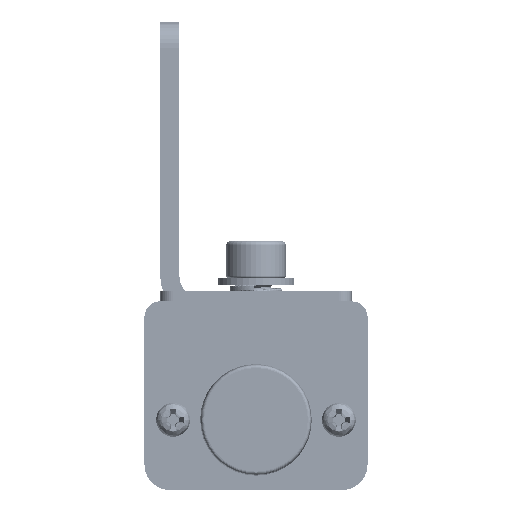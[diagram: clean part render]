
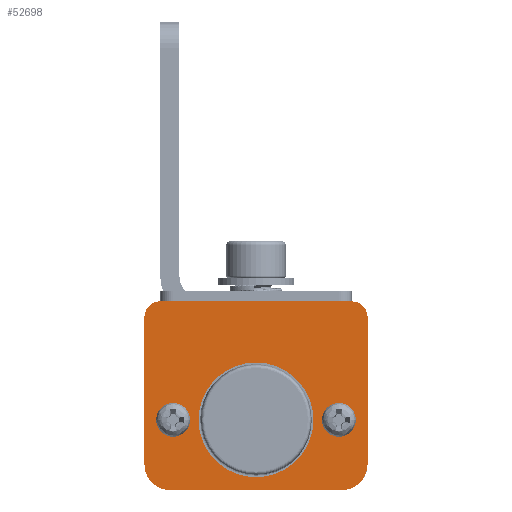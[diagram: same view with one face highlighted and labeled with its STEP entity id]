
A CAD part, front view. The second image highlights one B-rep face of the part: STEP entity #52698.
In plain terms, the highlighted planar face has unit normal (0, -1, 0) as drawn and (-1, 0, 0) by its records, which use the part's own axes.
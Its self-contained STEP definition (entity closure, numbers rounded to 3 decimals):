
#51957=DIRECTION('',(0.,1.,0.));
#51958=VECTOR('',#51957,30.);
#51959=CARTESIAN_POINT('',(28.4,0.,0.));
#51960=LINE('',#51959,#51958);
#52131=CARTESIAN_POINT('',(28.4,28.5,-25.587));
#52132=DIRECTION('',(1.,0.,0.));
#52133=DIRECTION('',(0.,0.,-1.));
#52134=AXIS2_PLACEMENT_3D('',#52131,#52132,#52133);
#52136=CARTESIAN_POINT('',(28.4,30.,-2.5));
#52137=DIRECTION('',(1.,0.,0.));
#52138=DIRECTION('',(0.,1.,0.));
#52139=AXIS2_PLACEMENT_3D('',#52136,#52137,#52138);
#52141=CARTESIAN_POINT('',(28.4,0.,-2.5));
#52142=DIRECTION('',(1.,0.,0.));
#52143=DIRECTION('',(0.,0.,1.));
#52144=AXIS2_PLACEMENT_3D('',#52141,#52142,#52143);
#52146=CARTESIAN_POINT('',(28.4,1.5,-25.587));
#52147=DIRECTION('',(1.,0.,0.));
#52148=DIRECTION('',(0.,-1.,0.));
#52149=AXIS2_PLACEMENT_3D('',#52146,#52147,#52148);
#52151=CARTESIAN_POINT('',(28.4,15.,-18.587));
#52152=DIRECTION('',(-1.,0.,0.));
#52153=DIRECTION('',(0.,0.,1.));
#52154=AXIS2_PLACEMENT_3D('',#52151,#52152,#52153);
#52156=CARTESIAN_POINT('',(28.4,15.,-18.587));
#52157=DIRECTION('',(-1.,0.,0.));
#52158=DIRECTION('',(0.,0.,-1.));
#52159=AXIS2_PLACEMENT_3D('',#52156,#52157,#52158);
#52161=CARTESIAN_POINT('',(28.4,28.,-18.587));
#52162=DIRECTION('',(-1.,0.,0.));
#52163=DIRECTION('',(0.,0.,1.));
#52164=AXIS2_PLACEMENT_3D('',#52161,#52162,#52163);
#52166=CARTESIAN_POINT('',(28.4,28.,-18.587));
#52167=DIRECTION('',(-1.,0.,0.));
#52168=DIRECTION('',(0.,0.,-1.));
#52169=AXIS2_PLACEMENT_3D('',#52166,#52167,#52168);
#52171=CARTESIAN_POINT('',(28.4,2.,-18.587));
#52172=DIRECTION('',(-1.,0.,0.));
#52173=DIRECTION('',(0.,0.,1.));
#52174=AXIS2_PLACEMENT_3D('',#52171,#52172,#52173);
#52176=CARTESIAN_POINT('',(28.4,2.,-18.587));
#52177=DIRECTION('',(-1.,0.,0.));
#52178=DIRECTION('',(0.,0.,-1.));
#52179=AXIS2_PLACEMENT_3D('',#52176,#52177,#52178);
#52189=DIRECTION('',(0.,0.,-1.));
#52190=VECTOR('',#52189,23.087);
#52191=CARTESIAN_POINT('',(28.4,32.5,-2.5));
#52192=LINE('',#52191,#52190);
#52193=DIRECTION('',(0.,-1.,0.));
#52194=VECTOR('',#52193,27.);
#52195=CARTESIAN_POINT('',(28.4,28.5,-29.587));
#52196=LINE('',#52195,#52194);
#52205=DIRECTION('',(0.,0.,1.));
#52206=VECTOR('',#52205,23.087);
#52207=CARTESIAN_POINT('',(28.4,-2.5,-25.587));
#52208=LINE('',#52207,#52206);
#52333=CARTESIAN_POINT('',(28.4,0.,0.));
#52334=VERTEX_POINT('',#52333);
#52335=CARTESIAN_POINT('',(28.4,30.,0.));
#52336=VERTEX_POINT('',#52335);
#52367=CARTESIAN_POINT('',(28.4,32.5,-2.5));
#52368=VERTEX_POINT('',#52367);
#52391=CARTESIAN_POINT('',(28.4,2.,-20.587));
#52392=VERTEX_POINT('',#52391);
#52393=CARTESIAN_POINT('',(28.4,2.,-16.587));
#52394=VERTEX_POINT('',#52393);
#52395=CARTESIAN_POINT('',(28.4,28.5,-29.587));
#52396=CARTESIAN_POINT('',(28.4,32.5,-25.587));
#52397=VERTEX_POINT('',#52395);
#52398=VERTEX_POINT('',#52396);
#52399=CARTESIAN_POINT('',(28.4,-2.5,-2.5));
#52400=VERTEX_POINT('',#52399);
#52401=CARTESIAN_POINT('',(28.4,-2.5,-25.587));
#52402=VERTEX_POINT('',#52401);
#52403=CARTESIAN_POINT('',(28.4,1.5,-29.587));
#52404=VERTEX_POINT('',#52403);
#52405=CARTESIAN_POINT('',(28.4,15.,-9.587));
#52406=CARTESIAN_POINT('',(28.4,15.,-27.587));
#52407=VERTEX_POINT('',#52405);
#52408=VERTEX_POINT('',#52406);
#52409=CARTESIAN_POINT('',(28.4,28.,-16.587));
#52410=CARTESIAN_POINT('',(28.4,28.,-20.587));
#52411=VERTEX_POINT('',#52409);
#52412=VERTEX_POINT('',#52410);
#52659=CARTESIAN_POINT('',(28.4,28.5,-25.587));
#52660=DIRECTION('',(1.,0.,0.));
#52661=DIRECTION('',(0.,0.,-1.));
#52662=AXIS2_PLACEMENT_3D('',#52659,#52660,#52661);
#52663=PLANE('',#52662);
#52665=ORIENTED_EDGE('',*,*,#52664,.T.);
#52667=ORIENTED_EDGE('',*,*,#52666,.F.);
#52668=ORIENTED_EDGE('',*,*,#52652,.T.);
#52669=ORIENTED_EDGE('',*,*,#52522,.F.);
#52671=ORIENTED_EDGE('',*,*,#52670,.T.);
#52673=ORIENTED_EDGE('',*,*,#52672,.F.);
#52675=ORIENTED_EDGE('',*,*,#52674,.T.);
#52677=ORIENTED_EDGE('',*,*,#52676,.F.);
#52678=EDGE_LOOP('',(#52665,#52667,#52668,#52669,#52671,#52673,#52675,#52677));
#52679=FACE_OUTER_BOUND('',#52678,.F.);
#52681=ORIENTED_EDGE('',*,*,#52680,.T.);
#52683=ORIENTED_EDGE('',*,*,#52682,.T.);
#52684=EDGE_LOOP('',(#52681,#52683));
#52685=FACE_BOUND('',#52684,.F.);
#52687=ORIENTED_EDGE('',*,*,#52686,.T.);
#52689=ORIENTED_EDGE('',*,*,#52688,.T.);
#52690=EDGE_LOOP('',(#52687,#52689));
#52691=FACE_BOUND('',#52690,.F.);
#52693=ORIENTED_EDGE('',*,*,#52692,.T.);
#52695=ORIENTED_EDGE('',*,*,#52694,.T.);
#52696=EDGE_LOOP('',(#52693,#52695));
#52697=FACE_BOUND('',#52696,.F.);
#52698=ADVANCED_FACE('',(#52679,#52685,#52691,#52697),#52663,.F.);
#52135=CIRCLE('',#52134,4.);
#52140=CIRCLE('',#52139,2.5);
#52145=CIRCLE('',#52144,2.5);
#52150=CIRCLE('',#52149,4.);
#52155=CIRCLE('',#52154,9.);
#52160=CIRCLE('',#52159,9.);
#52165=CIRCLE('',#52164,2.);
#52170=CIRCLE('',#52169,2.);
#52175=CIRCLE('',#52174,2.);
#52180=CIRCLE('',#52179,2.);
#52522=EDGE_CURVE('',#52334,#52336,#51960,.T.);
#52652=EDGE_CURVE('',#52368,#52336,#52140,.T.);
#52664=EDGE_CURVE('',#52397,#52398,#52135,.T.);
#52666=EDGE_CURVE('',#52368,#52398,#52192,.T.);
#52670=EDGE_CURVE('',#52334,#52400,#52145,.T.);
#52672=EDGE_CURVE('',#52402,#52400,#52208,.T.);
#52674=EDGE_CURVE('',#52402,#52404,#52150,.T.);
#52676=EDGE_CURVE('',#52397,#52404,#52196,.T.);
#52680=EDGE_CURVE('',#52407,#52408,#52155,.T.);
#52682=EDGE_CURVE('',#52408,#52407,#52160,.T.);
#52686=EDGE_CURVE('',#52411,#52412,#52165,.T.);
#52688=EDGE_CURVE('',#52412,#52411,#52170,.T.);
#52692=EDGE_CURVE('',#52394,#52392,#52175,.T.);
#52694=EDGE_CURVE('',#52392,#52394,#52180,.T.);
